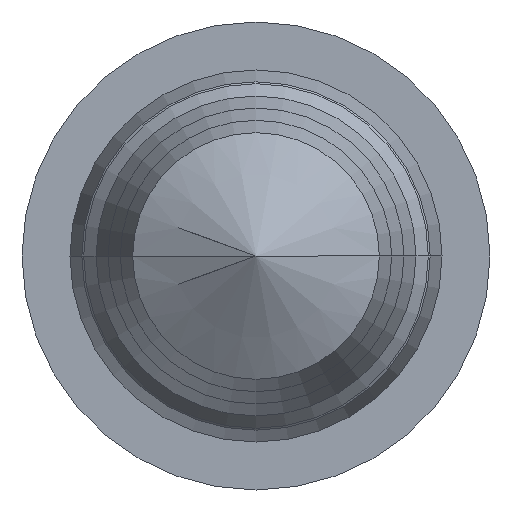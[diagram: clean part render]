
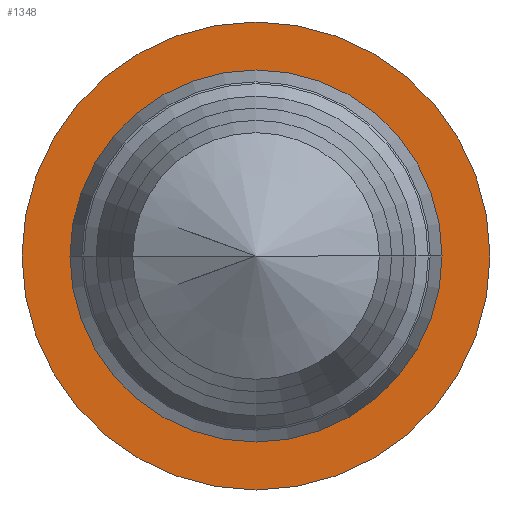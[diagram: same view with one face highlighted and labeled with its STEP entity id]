
A CAD part, front view. The second image highlights one B-rep face of the part: STEP entity #1348.
In plain terms, the highlighted planar face has unit normal (0, -1, 0).
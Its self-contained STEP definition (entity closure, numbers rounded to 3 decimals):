
#236=CARTESIAN_POINT('',(-0.472,-0.031,0.0));
#237=VERTEX_POINT('',#236);
#245=CARTESIAN_POINT('',(0.472,-0.031,0.));
#246=VERTEX_POINT('',#245);
#253=CARTESIAN_POINT('',(0.,-0.031,0.0));
#254=DIRECTION('',(0.0,-1.0,0.0));
#255=DIRECTION('',(-1.0,0.0,0.0));
#256=AXIS2_PLACEMENT_3D('',#253,#254,#255);
#257=CIRCLE('',#256,0.472);
#258=EDGE_CURVE('',#246,#237,#257,.T.);
#268=CARTESIAN_POINT('',(-0.594,-0.031,0.0));
#269=VERTEX_POINT('',#268);
#278=CARTESIAN_POINT('',(0.594,-0.031,0.));
#279=VERTEX_POINT('',#278);
#280=CARTESIAN_POINT('',(0.,-0.031,0.0));
#281=DIRECTION('',(0.0,-1.0,0.0));
#282=DIRECTION('',(-1.0,0.0,0.0));
#283=AXIS2_PLACEMENT_3D('',#280,#281,#282);
#284=CIRCLE('',#283,0.594);
#285=EDGE_CURVE('',#279,#269,#284,.T.);
#1319=CARTESIAN_POINT('',(0.,-0.031,0.0));
#1320=DIRECTION('',(0.0,-1.0,0.0));
#1321=DIRECTION('',(-1.0,0.0,0.0));
#1322=AXIS2_PLACEMENT_3D('',#1319,#1320,#1321);
#1323=CIRCLE('',#1322,0.594);
#1324=EDGE_CURVE('',#269,#279,#1323,.T.);
#1329=CARTESIAN_POINT('',(-0.533,-0.031,0.0));
#1330=DIRECTION('',(0.0,-1.0,0.0));
#1331=DIRECTION('',(0.0,0.0,-1.0));
#1332=AXIS2_PLACEMENT_3D('',#1329,#1330,#1331);
#1333=PLANE('',#1332);
#1334=ORIENTED_EDGE('',*,*,#1324,.T.);
#1335=ORIENTED_EDGE('',*,*,#285,.T.);
#1336=EDGE_LOOP('',(#1334,#1335));
#1337=FACE_OUTER_BOUND('',#1336,.T.);
#1338=CARTESIAN_POINT('',(0.,-0.031,0.0));
#1339=DIRECTION('',(0.0,-1.0,0.0));
#1340=DIRECTION('',(-1.0,0.0,0.0));
#1341=AXIS2_PLACEMENT_3D('',#1338,#1339,#1340);
#1342=CIRCLE('',#1341,0.472);
#1343=EDGE_CURVE('',#237,#246,#1342,.T.);
#1344=ORIENTED_EDGE('',*,*,#1343,.F.);
#1345=ORIENTED_EDGE('',*,*,#258,.F.);
#1346=EDGE_LOOP('',(#1344,#1345));
#1347=FACE_BOUND('',#1346,.T.);
#1348=ADVANCED_FACE('',(#1337,#1347),#1333,.T.);
